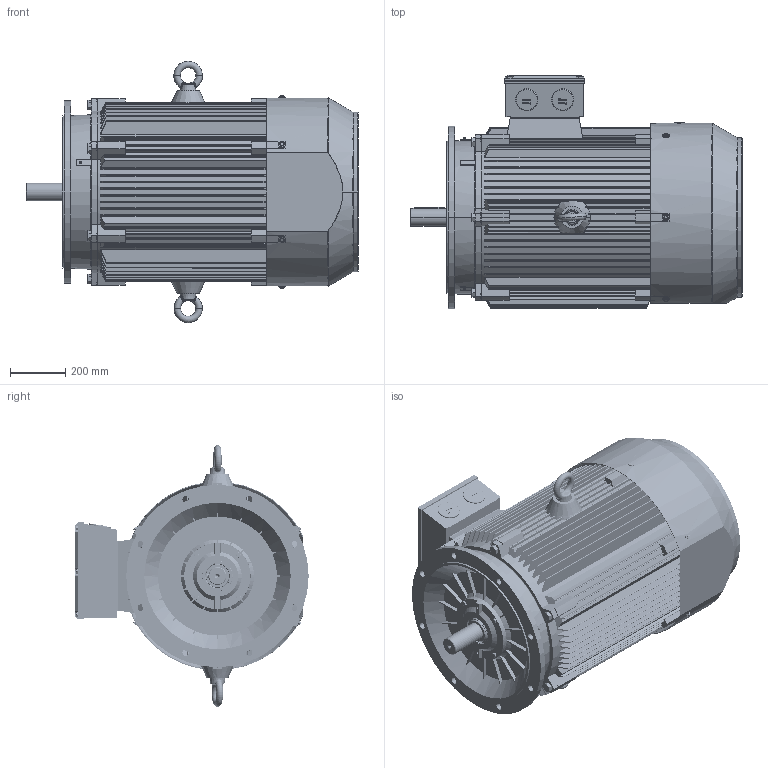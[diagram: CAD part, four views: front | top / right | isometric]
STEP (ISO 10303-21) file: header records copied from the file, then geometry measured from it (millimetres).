
FILE_DESCRIPTION (( 'STEP AP203' ), '1' );
FILE_NAME ('Motor-315S-2_B5_Step.STEP', '2024-06-26T08:04:45', ( '' ), ( '' ), 'SwSTEP 2.0', 'SolidWorks 2021', '' );
FILE_SCHEMA (( 'CONFIG_CONTROL_DESIGN' ));
Length unit declared in the file: millimetre
Products named in the file (23): ____M30_____^Motor-315S-2_B5_Step(2)_Motor-315S-2_B5_Step; TE315-2____0_____^Motor-315S-2_B5_Step(2)_Motor-315S-2_B5_Step; Motor-315S-2_B5_Step; M63_________^Motor-315S-2_B5_Step(2)_Motor-315S-2_B5_Step; Motor-315S-2_B5_Step(2)^Motor-315S-2_B5_Step; TX315_______________^Motor-315S-2_B5_Step(2)_Motor-315S-2_B5_Step; TC 315S-2 _______^Motor-315S-2_B5_Step(2)_Motor-315S-2_B5_Step; M10-90_____^Motor-315S-2_B5_Step(2)_Motor-315S-2_B5_Step; TC 315S ____ B5_____^Motor-315S-2_B5_Step(2)_Motor-315S-2_B5_Step; M10-25_____^Motor-315S-2_B5_Step(2)_Motor-315S-2_B5_Step; ___________________^Motor-315S-2_B5_Step(2)_Motor-315S-2_B5_Step; TE315-2____B5_____^Motor-315S-2_B5_Step(2)_Motor-315S-2_B5_Step; TE315-2_________^Motor-315S-2_B5_Step(2)_Motor-315S-2_B5_Step; TC 315_____________^Motor-315S-2_B5_Step(2)_Motor-315S-2_B5_Step; TC 315_____________-0^Motor-315S-2_B5_Step(2)_Motor-315S-2_B5_Step; ___________^Motor-315S-2_B5_Step(2)_Motor-315S-2_B5_Step; TE315-2_____________^Motor-315S-2_B5_Step(2)_Motor-315S-2_B5_Step; ____110-85-12_____^Motor-315S-2_B5_Step(2)_Motor-315S-2_B5_Step; TX315___________________^Motor-315S-2_B5_Step(2)_Motor-315S-2_B5_Step; TE315-2________(____+1)_____^Motor-315S-2_B5_Step(2)_Motor-315S-2_B5_Step; M20-70_____^Motor-315S-2_B5_Step(2)_Motor-315S-2_B5_Step; TC 315-4_________^Motor-315S-2_B5_Step(2)_Motor-315S-2_B5_Step; _________^Motor-315S-2_B5_Step(2)_Motor-315S-2_B5_Step
Assembly tree (44 placements, depth 3):
  Motor-315S-2_B5_Step
    Motor-315S-2_B5_Step(2)^Motor-315S-2_B5_Step
      TX315___________________^Motor-315S-2_B5_Step(2)_Motor-315S-2_B5_Step
      ___________________^Motor-315S-2_B5_Step(2)_Motor-315S-2_B5_Step  x6
      M20-70_____^Motor-315S-2_B5_Step(2)_Motor-315S-2_B5_Step  x6
      M10-25_____^Motor-315S-2_B5_Step(2)_Motor-315S-2_B5_Step  x6
      ____110-85-12_____^Motor-315S-2_B5_Step(2)_Motor-315S-2_B5_Step
      TE315-2_____________^Motor-315S-2_B5_Step(2)_Motor-315S-2_B5_Step  x2
      TX315_______________^Motor-315S-2_B5_Step(2)_Motor-315S-2_B5_Step
      ____M30_____^Motor-315S-2_B5_Step(2)_Motor-315S-2_B5_Step  x2
      M10-90_____^Motor-315S-2_B5_Step(2)_Motor-315S-2_B5_Step  x4
      TE315-2____0_____^Motor-315S-2_B5_Step(2)_Motor-315S-2_B5_Step
      M63_________^Motor-315S-2_B5_Step(2)_Motor-315S-2_B5_Step  x2
      TE315-2_________^Motor-315S-2_B5_Step(2)_Motor-315S-2_B5_Step
      TC 315-4_________^Motor-315S-2_B5_Step(2)_Motor-315S-2_B5_Step
      TE315-2________(____+1)_____^Motor-315S-2_B5_Step(2)_Motor-315S-2_B5_Step  x2
      TC 315_____________^Motor-315S-2_B5_Step(2)_Motor-315S-2_B5_Step
      TC 315S-2 _______^Motor-315S-2_B5_Step(2)_Motor-315S-2_B5_Step
      TC 315S ____ B5_____^Motor-315S-2_B5_Step(2)_Motor-315S-2_B5_Step
      TE315-2____B5_____^Motor-315S-2_B5_Step(2)_Motor-315S-2_B5_Step
      ___________^Motor-315S-2_B5_Step(2)_Motor-315S-2_B5_Step
      TC 315_____________-0^Motor-315S-2_B5_Step(2)_Motor-315S-2_B5_Step
      _________^Motor-315S-2_B5_Step(2)_Motor-315S-2_B5_Step
Bounding box: 1201 x 844 x 946 mm (x, y, z)
Volume: 54539755.1 mm3; surface area: 11449372.6 mm2
Topology: 44 solids, 44 shells, 7840 faces, 22225 edges, 14627 vertices
Faces by surface type: plane 3934, cylinder 3106, cone 470, torus 240, bspline 86, sphere 4
Entity records: 263882 total; most frequent: CARTESIAN_POINT 67360, ORIENTED_EDGE 41368, DIRECTION 39794, EDGE_CURVE 20684, AXIS2_PLACEMENT_3D 13742, VERTEX_POINT 13664, LINE 12310, VECTOR 12310
